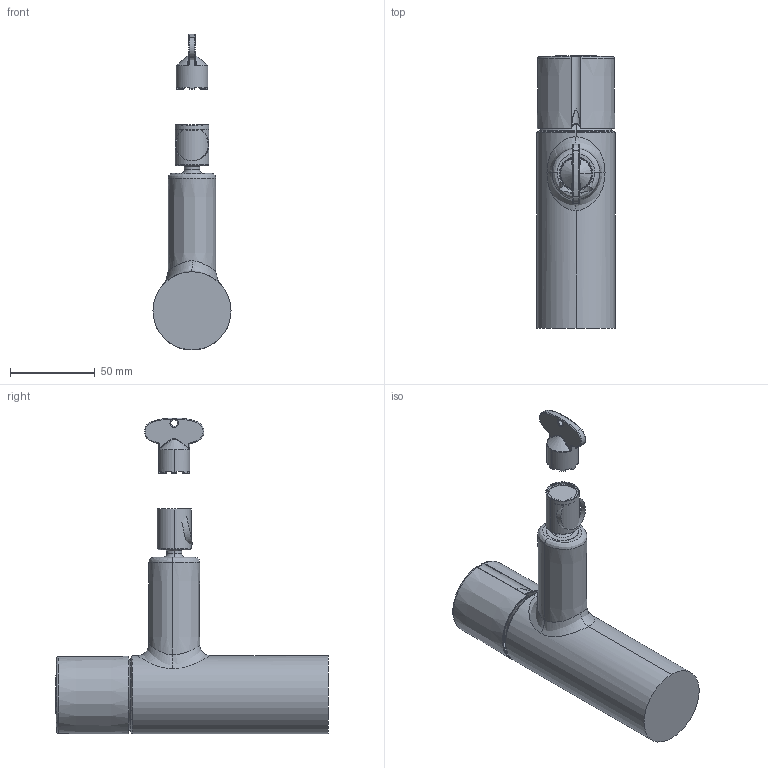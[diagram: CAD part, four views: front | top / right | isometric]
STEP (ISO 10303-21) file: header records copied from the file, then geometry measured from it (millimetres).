
FILE_DESCRIPTION((''),'2;1');
FILE_NAME('509434_ASM','2025-11-06T13:49:19',('WB441'),(''),'CREO PARAMETRIC BY PTC INC, 2024133','CREO PARAMETRIC BY PTC INC, 2024133','');
FILE_SCHEMA(('CONFIG_CONTROL_DESIGN'));
Length unit declared in the file: millimetre
Products named in the file (26): 616234; 616090; 537709_T7; 538330-T1; 537709_T2; 537709_T3; 537709_T4; 537709_T5; 537709_T6; 537709_T8; 537709_T9; 538330_ASM; 616073; 616100; A010935_AF0; 611010; 600702; 611012; 611011; 535661_ASM; 636264; 635565; A016999; 616615; 634729; 509434_ASM
Assembly tree (26 placements, depth 3):
  509434_ASM
    616234
    616090
    538330_ASM
      537709_T7
      538330-T1
      537709_T2
      537709_T3
      537709_T4
      537709_T5
      537709_T6
      537709_T8
      537709_T9  x2
    616073
    616100
    A010935_AF0
    535661_ASM
      611010
      600702
      611012
      611011
    636264
    635565
    A016999
    616615
    634729
Bounding box: 46 x 160.65 x 186.1 mm (x, y, z)
Volume: 204443.6 mm3; surface area: 104468.9 mm2
Topology: 25 solids, 42 shells, 2615 faces, 6921 edges, 4412 vertices
Faces by surface type: plane 1081, cylinder 539, bspline 331, torus 320, cone 289, sphere 28, revolution 20, extrusion 7
Entity records: 115280 total; most frequent: CARTESIAN_POINT 50947, ORIENTED_EDGE 13714, DIRECTION 13257, EDGE_CURVE 6890, AXIS2_PLACEMENT_3D 5054, VERTEX_POINT 4404, VECTOR 3135, LINE 3128
